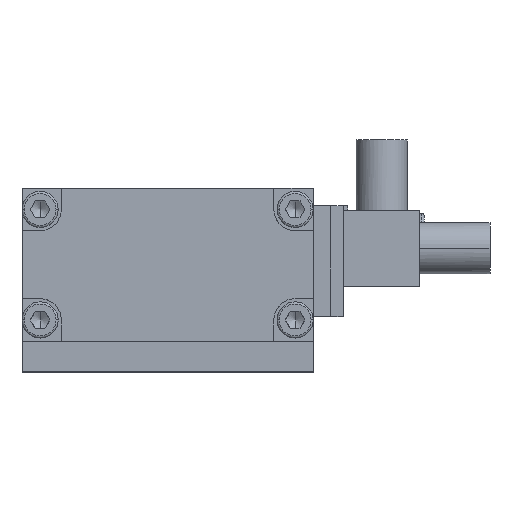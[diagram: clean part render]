
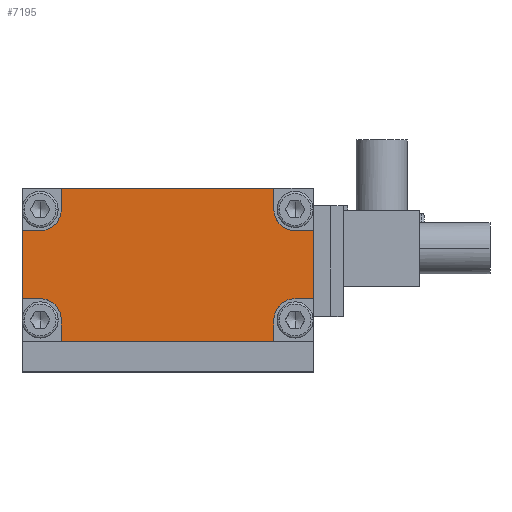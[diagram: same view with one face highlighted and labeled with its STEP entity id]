
A CAD part, top view. The second image highlights one B-rep face of the part: STEP entity #7195.
In plain terms, the highlighted planar face has unit normal (0, 0, 1).
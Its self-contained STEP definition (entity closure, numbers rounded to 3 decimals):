
#6483=CARTESIAN_POINT('Vertex',(-0.1,-26.,147.)) ;
#6486=CARTESIAN_POINT('Line Origine',(-0.1,-18.,147.)) ;
#6490=CARTESIAN_POINT('Vertex',(-0.1,-10.,147.)) ;
#6879=CARTESIAN_POINT('Vertex',(9.15,0.,147.)) ;
#6882=CARTESIAN_POINT('Line Origine',(34.15,0.,147.)) ;
#6886=CARTESIAN_POINT('Vertex',(59.15,0.,147.)) ;
#6928=CARTESIAN_POINT('Vertex',(9.15,-36.,147.)) ;
#6956=CARTESIAN_POINT('Vertex',(59.15,-36.,147.)) ;
#6959=CARTESIAN_POINT('Line Origine',(34.15,-36.,147.)) ;
#7079=CARTESIAN_POINT('Vertex',(4.15,-26.,147.)) ;
#7082=CARTESIAN_POINT('Line Origine',(2.025,-26.,147.)) ;
#7094=CARTESIAN_POINT('Axis2P3D Location',(34.15,-18.,147.)) ;
#7099=CARTESIAN_POINT('Line Origine',(9.15,-2.5,147.)) ;
#7103=CARTESIAN_POINT('Vertex',(9.15,-5.,147.)) ;
#7106=CARTESIAN_POINT('Axis2P3D Location',(4.15,-5.,147.)) ;
#7110=CARTESIAN_POINT('Vertex',(4.15,-10.,147.)) ;
#7113=CARTESIAN_POINT('Line Origine',(2.025,-10.,147.)) ;
#7118=CARTESIAN_POINT('Axis2P3D Location',(4.15,-31.,147.)) ;
#7122=CARTESIAN_POINT('Vertex',(9.15,-31.,147.)) ;
#7125=CARTESIAN_POINT('Line Origine',(9.15,-33.5,147.)) ;
#7130=CARTESIAN_POINT('Line Origine',(59.15,-33.5,147.)) ;
#7134=CARTESIAN_POINT('Vertex',(59.15,-31.,147.)) ;
#7137=CARTESIAN_POINT('Axis2P3D Location',(64.15,-31.,147.)) ;
#7141=CARTESIAN_POINT('Vertex',(64.15,-26.,147.)) ;
#7144=CARTESIAN_POINT('Line Origine',(66.275,-26.,147.)) ;
#7148=CARTESIAN_POINT('Vertex',(68.4,-26.,147.)) ;
#7151=CARTESIAN_POINT('Line Origine',(68.4,-18.,147.)) ;
#7155=CARTESIAN_POINT('Vertex',(68.4,-10.,147.)) ;
#7158=CARTESIAN_POINT('Line Origine',(66.275,-10.,147.)) ;
#7162=CARTESIAN_POINT('Vertex',(64.15,-10.,147.)) ;
#7165=CARTESIAN_POINT('Axis2P3D Location',(64.15,-5.,147.)) ;
#7169=CARTESIAN_POINT('Vertex',(59.15,-5.,147.)) ;
#7172=CARTESIAN_POINT('Line Origine',(59.15,-2.5,147.)) ;
#6487=DIRECTION('Vector Direction',(0.,-1.,0.)) ;
#6883=DIRECTION('Vector Direction',(-1.,0.,0.)) ;
#6960=DIRECTION('Vector Direction',(1.,0.,0.)) ;
#7083=DIRECTION('Vector Direction',(1.,0.,0.)) ;
#7095=DIRECTION('Axis2P3D Direction',(0.,0.,-1.)) ;
#7096=DIRECTION('Axis2P3D XDirection',(-1.,0.,0.)) ;
#7100=DIRECTION('Vector Direction',(0.,-1.,0.)) ;
#7107=DIRECTION('Axis2P3D Direction',(0.,0.,-1.)) ;
#7114=DIRECTION('Vector Direction',(-1.,0.,0.)) ;
#7119=DIRECTION('Axis2P3D Direction',(0.,0.,-1.)) ;
#7126=DIRECTION('Vector Direction',(0.,-1.,0.)) ;
#7131=DIRECTION('Vector Direction',(0.,1.,0.)) ;
#7138=DIRECTION('Axis2P3D Direction',(0.,0.,-1.)) ;
#7145=DIRECTION('Vector Direction',(1.,0.,0.)) ;
#7152=DIRECTION('Vector Direction',(0.,1.,0.)) ;
#7159=DIRECTION('Vector Direction',(-1.,0.,0.)) ;
#7166=DIRECTION('Axis2P3D Direction',(0.,0.,-1.)) ;
#7173=DIRECTION('Vector Direction',(0.,1.,0.)) ;
#7097=AXIS2_PLACEMENT_3D('Plane Axis2P3D',#7094,#7095,#7096) ;
#7108=AXIS2_PLACEMENT_3D('Circle Axis2P3D',#7106,#7107,$) ;
#7120=AXIS2_PLACEMENT_3D('Circle Axis2P3D',#7118,#7119,$) ;
#7139=AXIS2_PLACEMENT_3D('Circle Axis2P3D',#7137,#7138,$) ;
#7167=AXIS2_PLACEMENT_3D('Circle Axis2P3D',#7165,#7166,$) ;
#7178=ORIENTED_EDGE('',*,*,#7105,.T.) ;
#7179=ORIENTED_EDGE('',*,*,#7112,.T.) ;
#7180=ORIENTED_EDGE('',*,*,#7117,.T.) ;
#7181=ORIENTED_EDGE('',*,*,#6492,.T.) ;
#7182=ORIENTED_EDGE('',*,*,#7086,.T.) ;
#7183=ORIENTED_EDGE('',*,*,#7124,.T.) ;
#7184=ORIENTED_EDGE('',*,*,#7129,.T.) ;
#7185=ORIENTED_EDGE('',*,*,#6963,.T.) ;
#7186=ORIENTED_EDGE('',*,*,#7136,.T.) ;
#7187=ORIENTED_EDGE('',*,*,#7143,.T.) ;
#7188=ORIENTED_EDGE('',*,*,#7150,.T.) ;
#7189=ORIENTED_EDGE('',*,*,#7157,.T.) ;
#7190=ORIENTED_EDGE('',*,*,#7164,.T.) ;
#7191=ORIENTED_EDGE('',*,*,#7171,.T.) ;
#7192=ORIENTED_EDGE('',*,*,#7176,.T.) ;
#7193=ORIENTED_EDGE('',*,*,#6888,.T.) ;
#6488=VECTOR('Line Direction',#6487,1.) ;
#6884=VECTOR('Line Direction',#6883,1.) ;
#6961=VECTOR('Line Direction',#6960,1.) ;
#7084=VECTOR('Line Direction',#7083,1.) ;
#7101=VECTOR('Line Direction',#7100,1.) ;
#7115=VECTOR('Line Direction',#7114,1.) ;
#7127=VECTOR('Line Direction',#7126,1.) ;
#7132=VECTOR('Line Direction',#7131,1.) ;
#7146=VECTOR('Line Direction',#7145,1.) ;
#7153=VECTOR('Line Direction',#7152,1.) ;
#7160=VECTOR('Line Direction',#7159,1.) ;
#7174=VECTOR('Line Direction',#7173,1.) ;
#7195=ADVANCED_FACE('Volumenk\X2\00F6\X0\rper3',(#7194),#7098,.F.) ;
#7109=CIRCLE('generated circle',#7108,5.) ;
#7121=CIRCLE('generated circle',#7120,5.) ;
#7140=CIRCLE('generated circle',#7139,5.) ;
#7168=CIRCLE('generated circle',#7167,5.) ;
#6492=EDGE_CURVE('',#6491,#6484,#6489,.T.) ;
#6888=EDGE_CURVE('',#6887,#6880,#6885,.T.) ;
#6963=EDGE_CURVE('',#6929,#6957,#6962,.T.) ;
#7086=EDGE_CURVE('',#6484,#7080,#7085,.T.) ;
#7105=EDGE_CURVE('',#6880,#7104,#7102,.T.) ;
#7112=EDGE_CURVE('',#7104,#7111,#7109,.T.) ;
#7117=EDGE_CURVE('',#7111,#6491,#7116,.T.) ;
#7124=EDGE_CURVE('',#7080,#7123,#7121,.T.) ;
#7129=EDGE_CURVE('',#7123,#6929,#7128,.T.) ;
#7136=EDGE_CURVE('',#6957,#7135,#7133,.T.) ;
#7143=EDGE_CURVE('',#7135,#7142,#7140,.T.) ;
#7150=EDGE_CURVE('',#7142,#7149,#7147,.T.) ;
#7157=EDGE_CURVE('',#7149,#7156,#7154,.T.) ;
#7164=EDGE_CURVE('',#7156,#7163,#7161,.T.) ;
#7171=EDGE_CURVE('',#7163,#7170,#7168,.T.) ;
#7176=EDGE_CURVE('',#7170,#6887,#7175,.T.) ;
#7177=EDGE_LOOP('',(#7178,#7179,#7180,#7181,#7182,#7183,#7184,#7185,#7186,#7187,#7188,#7189,#7190,#7191,#7192,#7193)) ;
#7194=FACE_OUTER_BOUND('',#7177,.T.) ;
#6489=LINE('Line',#6486,#6488) ;
#6885=LINE('Line',#6882,#6884) ;
#6962=LINE('Line',#6959,#6961) ;
#7085=LINE('Line',#7082,#7084) ;
#7102=LINE('Line',#7099,#7101) ;
#7116=LINE('Line',#7113,#7115) ;
#7128=LINE('Line',#7125,#7127) ;
#7133=LINE('Line',#7130,#7132) ;
#7147=LINE('Line',#7144,#7146) ;
#7154=LINE('Line',#7151,#7153) ;
#7161=LINE('Line',#7158,#7160) ;
#7175=LINE('Line',#7172,#7174) ;
#7098=PLANE('Plane',#7097) ;
#6484=VERTEX_POINT('',#6483) ;
#6491=VERTEX_POINT('',#6490) ;
#6880=VERTEX_POINT('',#6879) ;
#6887=VERTEX_POINT('',#6886) ;
#6929=VERTEX_POINT('',#6928) ;
#6957=VERTEX_POINT('',#6956) ;
#7080=VERTEX_POINT('',#7079) ;
#7104=VERTEX_POINT('',#7103) ;
#7111=VERTEX_POINT('',#7110) ;
#7123=VERTEX_POINT('',#7122) ;
#7135=VERTEX_POINT('',#7134) ;
#7142=VERTEX_POINT('',#7141) ;
#7149=VERTEX_POINT('',#7148) ;
#7156=VERTEX_POINT('',#7155) ;
#7163=VERTEX_POINT('',#7162) ;
#7170=VERTEX_POINT('',#7169) ;
